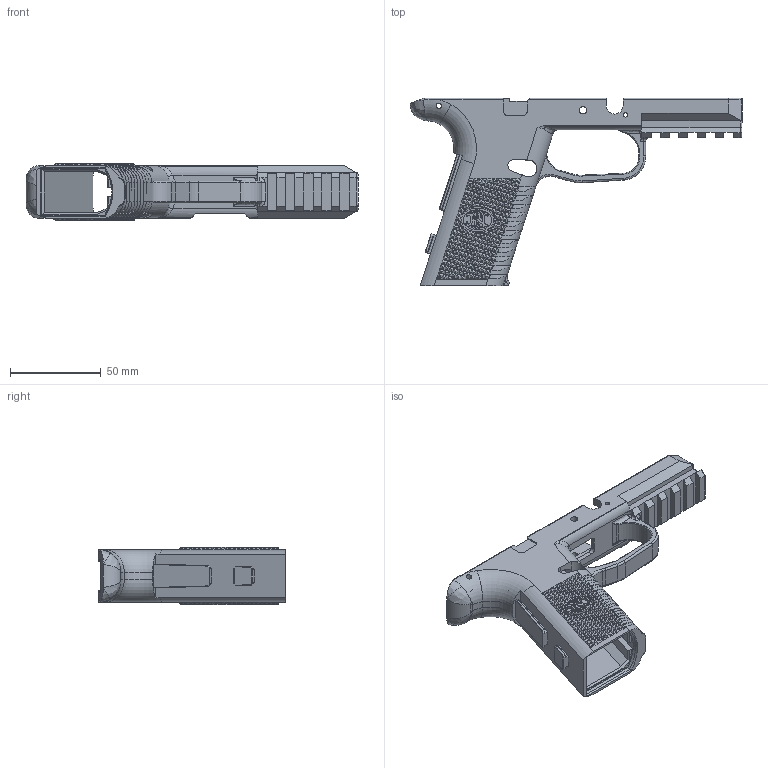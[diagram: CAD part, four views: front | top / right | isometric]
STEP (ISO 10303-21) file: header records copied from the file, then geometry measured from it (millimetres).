
FILE_DESCRIPTION(/* description */ (''),/* implementation_level */ '2;1');
FILE_NAME(/* name */ 'C:/Users/Bob/Desktop/FNS-940_Texture_7 v3.step',/* time_stamp */ '2021-06-06T21:29:46-07:00',/* author */ (''),/* organization */ (''),/* preprocessor_version */ 'ST-DEVELOPER v18.1',/* originating_system */ 'Autodesk Translation Framework v10.9.0.1377',/* authorisation */ '');
FILE_SCHEMA (('AUTOMOTIVE_DESIGN { 1 0 10303 214 3 1 1 }'));
Products named in the file (5): FNS-940_Texture_7; Main Frame; Compact Size Grip; Standard Size Grip; Standard Size Grip (Stopgap)
Assembly tree (4 placements, depth 2):
  FNS-940_Texture_7
    Main Frame
    Compact Size Grip
    Standard Size Grip
    Standard Size Grip (Stopgap)
Bounding box: 183.1 x 103.6 x 31.54 mm (x, y, z)
Volume: 81554.6 mm3; surface area: 48138 mm2
Topology: 1 solids, 1 shells, 2997 faces, 6471 edges, 3485 vertices
Faces by surface type: plane 2674, cylinder 149, bspline 141, torus 27, cone 6
Full cylindrical faces by diameter (mm): 0.612 x2, 2.5 x2, 3 x2, 4.1 x2
Entity records: 92761 total; most frequent: CARTESIAN_POINT 30270, ORIENTED_EDGE 12938, DIRECTION 12163, EDGE_CURVE 6469, LINE 5527, VECTOR 5527, VERTEX_POINT 3485, AXIS2_PLACEMENT_3D 3318
